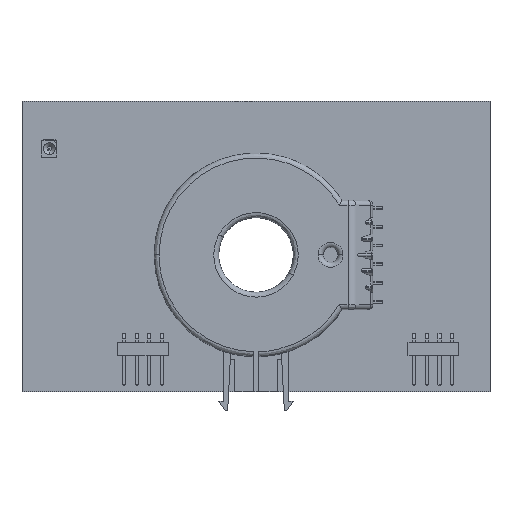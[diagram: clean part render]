
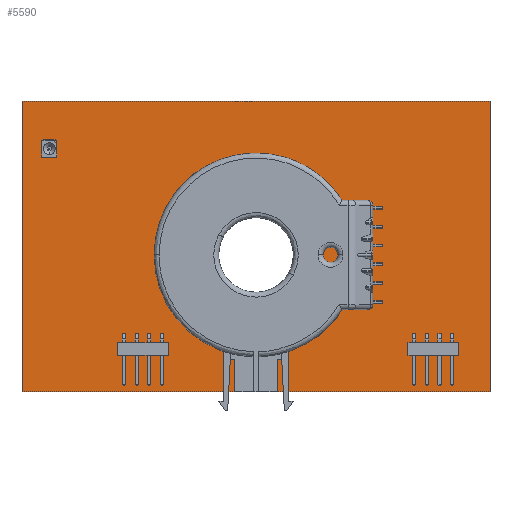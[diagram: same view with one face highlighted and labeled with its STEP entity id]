
A CAD part, top view. The second image highlights one B-rep face of the part: STEP entity #5590.
In plain terms, the highlighted planar face has unit normal (0, 0, 1).
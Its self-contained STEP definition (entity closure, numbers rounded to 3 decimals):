
#111 = FACE_BOUND ( 'NONE', #6059, .T. ) ;
#314 = VERTEX_POINT ( 'NONE', #12250 ) ;
#346 = ORIENTED_EDGE ( 'NONE', *, *, #13625, .T. ) ;
#491 = VECTOR ( 'NONE', #6863, 1000. ) ;
#532 = AXIS2_PLACEMENT_3D ( 'NONE', #13238, #6605, #14355 ) ;
#857 = EDGE_CURVE ( 'NONE', #1680, #3425, #3513, .T. ) ;
#866 = LINE ( 'NONE', #3032, #3456 ) ;
#1013 = PLANE ( 'NONE',  #532 ) ;
#1140 = CARTESIAN_POINT ( 'NONE',  ( 94.2, 6.5, 1.5 ) ) ;
#1528 = ORIENTED_EDGE ( 'NONE', *, *, #7376, .F. ) ;
#1680 = VERTEX_POINT ( 'NONE', #1140 ) ;
#1728 = DIRECTION ( 'NONE',  ( -0.707, -0.707, 0. ) ) ;
#1878 = CARTESIAN_POINT ( 'NONE',  ( 36.316, 48.671, 1.5 ) ) ;
#1965 = EDGE_CURVE ( 'NONE', #9919, #5893, #9014, .T. ) ;
#1998 = DIRECTION ( 'NONE',  ( -0.707, -0.707, 0. ) ) ;
#2053 = AXIS2_PLACEMENT_3D ( 'NONE', #5242, #13016, #6361 ) ;
#2288 = EDGE_CURVE ( 'NONE', #5893, #9919, #5722, .T. ) ;
#2326 = LINE ( 'NONE', #6338, #13759 ) ;
#2703 = CARTESIAN_POINT ( 'NONE',  ( 32.425, 44.784, 1.5 ) ) ;
#2749 = CARTESIAN_POINT ( 'NONE',  ( 61.771, 23.216, 1.5 ) ) ;
#2926 = CARTESIAN_POINT ( 'NONE',  ( 59.58, 17.63, 1.5 ) ) ;
#3032 = CARTESIAN_POINT ( 'NONE',  ( 63.47, 21.52, 1.5 ) ) ;
#3218 = VERTEX_POINT ( 'NONE', #2749 ) ;
#3309 = LINE ( 'NONE', #4921, #11819 ) ;
#3378 = EDGE_CURVE ( 'NONE', #5317, #3218, #6895, .T. ) ;
#3425 = VERTEX_POINT ( 'NONE', #8728 ) ;
#3456 = VECTOR ( 'NONE', #4119, 1000. ) ;
#3513 = LINE ( 'NONE', #4020, #12034 ) ;
#3835 = VERTEX_POINT ( 'NONE', #14017 ) ;
#4020 = CARTESIAN_POINT ( 'NONE',  ( 94.2, 6.5, 1.5 ) ) ;
#4058 = CARTESIAN_POINT ( 'NONE',  ( 0., 6.5, 1.5 ) ) ;
#4119 = DIRECTION ( 'NONE',  ( 0.707, 0.707, 0. ) ) ;
#4269 = CARTESIAN_POINT ( 'NONE',  ( 47.1, 34., 1.5 ) ) ;
#4283 = CARTESIAN_POINT ( 'NONE',  ( 34.62, 50.37, 1.5 ) ) ;
#4536 = DIRECTION ( 'NONE',  ( 0.707, -0.707, 0. ) ) ;
#4571 = ORIENTED_EDGE ( 'NONE', *, *, #2288, .F. ) ;
#4645 = ORIENTED_EDGE ( 'NONE', *, *, #6914, .T. ) ;
#4806 = ORIENTED_EDGE ( 'NONE', *, *, #6513, .F. ) ;
#4921 = CARTESIAN_POINT ( 'NONE',  ( 36.316, 48.671, 1.5 ) ) ;
#5237 = DIRECTION ( 'NONE',  ( -1., 0., 0. ) ) ;
#5242 = CARTESIAN_POINT ( 'NONE',  ( 47.1, 34., 1.5 ) ) ;
#5277 = LINE ( 'NONE', #9956, #11175 ) ;
#5317 = VERTEX_POINT ( 'NONE', #12721 ) ;
#5419 = LINE ( 'NONE', #4283, #11304 ) ;
#5590 = ADVANCED_FACE ( 'NONE', ( #111, #14157, #11210, #8633 ), #1013, .T. ) ;
#5689 = CARTESIAN_POINT ( 'NONE',  ( 57.099, 34., 1.5 ) ) ;
#5722 = CIRCLE ( 'NONE', #2053, 9.999 ) ;
#5737 = ORIENTED_EDGE ( 'NONE', *, *, #7358, .F. ) ;
#5893 = VERTEX_POINT ( 'NONE', #12936 ) ;
#6059 = EDGE_LOOP ( 'NONE', ( #8119, #4806, #11635, #7779 ) ) ;
#6338 = CARTESIAN_POINT ( 'NONE',  ( 0., 65.001, 1.5 ) ) ;
#6361 = DIRECTION ( 'NONE',  ( 1., 0., 0. ) ) ;
#6478 = ORIENTED_EDGE ( 'NONE', *, *, #7631, .F. ) ;
#6480 = DIRECTION ( 'NONE',  ( 0., 0., 1. ) ) ;
#6513 = EDGE_CURVE ( 'NONE', #3218, #314, #8025, .T. ) ;
#6543 = VECTOR ( 'NONE', #11916, 1000. ) ;
#6605 = DIRECTION ( 'NONE',  ( 0., 0., 1. ) ) ;
#6684 = EDGE_LOOP ( 'NONE', ( #8665, #4645, #346, #8488 ) ) ;
#6863 = DIRECTION ( 'NONE',  ( 1., 0., 0. ) ) ;
#6895 = LINE ( 'NONE', #10774, #6543 ) ;
#6904 = VERTEX_POINT ( 'NONE', #1878 ) ;
#6914 = EDGE_CURVE ( 'NONE', #3425, #3835, #6988, .T. ) ;
#6988 = LINE ( 'NONE', #8553, #12526 ) ;
#7358 = EDGE_CURVE ( 'NONE', #10049, #12272, #5419, .T. ) ;
#7376 = EDGE_CURVE ( 'NONE', #12272, #10521, #8357, .T. ) ;
#7572 = ORIENTED_EDGE ( 'NONE', *, *, #13768, .F. ) ;
#7631 = EDGE_CURVE ( 'NONE', #6904, #10049, #3309, .T. ) ;
#7697 = VECTOR ( 'NONE', #1728, 1000. ) ;
#7779 = ORIENTED_EDGE ( 'NONE', *, *, #10125, .F. ) ;
#7970 = LINE ( 'NONE', #10079, #8328 ) ;
#8025 = LINE ( 'NONE', #9523, #7697 ) ;
#8119 = ORIENTED_EDGE ( 'NONE', *, *, #9916, .F. ) ;
#8328 = VECTOR ( 'NONE', #4536, 1000. ) ;
#8357 = LINE ( 'NONE', #10860, #10943 ) ;
#8488 = ORIENTED_EDGE ( 'NONE', *, *, #12713, .T. ) ;
#8553 = CARTESIAN_POINT ( 'NONE',  ( 94.2, 65.001, 1.5 ) ) ;
#8633 = FACE_BOUND ( 'NONE', #8916, .T. ) ;
#8665 = ORIENTED_EDGE ( 'NONE', *, *, #857, .T. ) ;
#8728 = CARTESIAN_POINT ( 'NONE',  ( 94.2, 65.001, 1.5 ) ) ;
#8916 = EDGE_LOOP ( 'NONE', ( #4571, #9347 ) ) ;
#9014 = CIRCLE ( 'NONE', #11832, 9.999 ) ;
#9093 = CARTESIAN_POINT ( 'NONE',  ( 30.73, 46.48, 1.5 ) ) ;
#9347 = ORIENTED_EDGE ( 'NONE', *, *, #1965, .F. ) ;
#9523 = CARTESIAN_POINT ( 'NONE',  ( 57.884, 19.325, 1.5 ) ) ;
#9916 = EDGE_CURVE ( 'NONE', #314, #12966, #7970, .T. ) ;
#9919 = VERTEX_POINT ( 'NONE', #5689 ) ;
#9956 = CARTESIAN_POINT ( 'NONE',  ( 32.425, 44.784, 1.5 ) ) ;
#10049 = VERTEX_POINT ( 'NONE', #12818 ) ;
#10079 = CARTESIAN_POINT ( 'NONE',  ( 59.58, 17.63, 1.5 ) ) ;
#10125 = EDGE_CURVE ( 'NONE', #12966, #5317, #866, .T. ) ;
#10521 = VERTEX_POINT ( 'NONE', #2703 ) ;
#10774 = CARTESIAN_POINT ( 'NONE',  ( 61.771, 23.216, 1.5 ) ) ;
#10860 = CARTESIAN_POINT ( 'NONE',  ( 30.73, 46.48, 1.5 ) ) ;
#10878 = LINE ( 'NONE', #13469, #491 ) ;
#10943 = VECTOR ( 'NONE', #12065, 1000. ) ;
#11175 = VECTOR ( 'NONE', #12165, 1000. ) ;
#11210 = FACE_BOUND ( 'NONE', #12302, .T. ) ;
#11304 = VECTOR ( 'NONE', #1998, 1000. ) ;
#11635 = ORIENTED_EDGE ( 'NONE', *, *, #3378, .F. ) ;
#11819 = VECTOR ( 'NONE', #12773, 1000. ) ;
#11832 = AXIS2_PLACEMENT_3D ( 'NONE', #4269, #6480, #13104 ) ;
#11916 = DIRECTION ( 'NONE',  ( -0.708, 0.706, 0. ) ) ;
#12034 = VECTOR ( 'NONE', #12653, 1000. ) ;
#12065 = DIRECTION ( 'NONE',  ( 0.707, -0.707, 0. ) ) ;
#12165 = DIRECTION ( 'NONE',  ( 0.707, 0.707, 0. ) ) ;
#12250 = CARTESIAN_POINT ( 'NONE',  ( 57.884, 19.325, 1.5 ) ) ;
#12272 = VERTEX_POINT ( 'NONE', #9093 ) ;
#12302 = EDGE_LOOP ( 'NONE', ( #6478, #7572, #1528, #5737 ) ) ;
#12526 = VECTOR ( 'NONE', #5237, 1000. ) ;
#12653 = DIRECTION ( 'NONE',  ( 0., 1., 0. ) ) ;
#12713 = EDGE_CURVE ( 'NONE', #13012, #1680, #10878, .T. ) ;
#12721 = CARTESIAN_POINT ( 'NONE',  ( 63.47, 21.52, 1.5 ) ) ;
#12773 = DIRECTION ( 'NONE',  ( -0.706, 0.708, 0. ) ) ;
#12818 = CARTESIAN_POINT ( 'NONE',  ( 34.62, 50.37, 1.5 ) ) ;
#12936 = CARTESIAN_POINT ( 'NONE',  ( 37.101, 34., 1.5 ) ) ;
#12966 = VERTEX_POINT ( 'NONE', #2926 ) ;
#12993 = DIRECTION ( 'NONE',  ( 0., -1., 0. ) ) ;
#13012 = VERTEX_POINT ( 'NONE', #4058 ) ;
#13016 = DIRECTION ( 'NONE',  ( 0., 0., 1. ) ) ;
#13104 = DIRECTION ( 'NONE',  ( 1., 0., 0. ) ) ;
#13238 = CARTESIAN_POINT ( 'NONE',  ( 94.2, 65.001, 1.5 ) ) ;
#13469 = CARTESIAN_POINT ( 'NONE',  ( 0., 6.5, 1.5 ) ) ;
#13625 = EDGE_CURVE ( 'NONE', #3835, #13012, #2326, .T. ) ;
#13759 = VECTOR ( 'NONE', #12993, 1000. ) ;
#13768 = EDGE_CURVE ( 'NONE', #10521, #6904, #5277, .T. ) ;
#14017 = CARTESIAN_POINT ( 'NONE',  ( 0., 65.001, 1.5 ) ) ;
#14157 = FACE_OUTER_BOUND ( 'NONE', #6684, .T. ) ;
#14355 = DIRECTION ( 'NONE',  ( 1., 0., 0. ) ) ;
